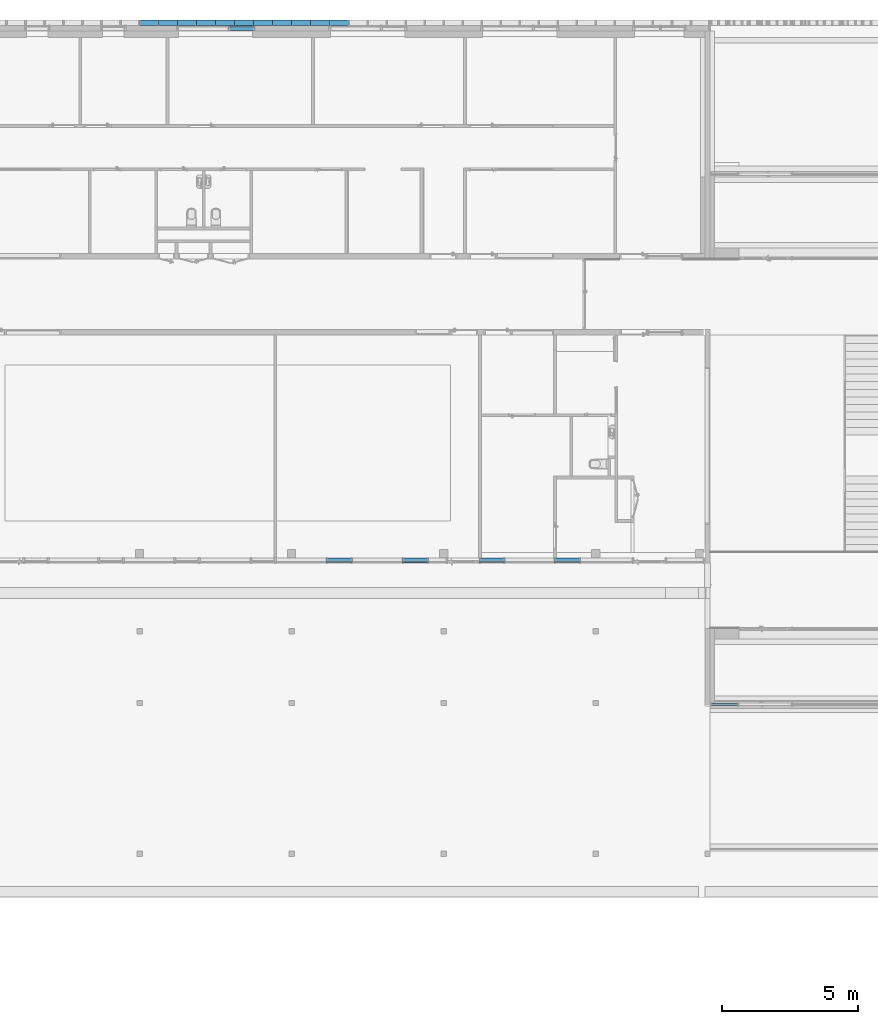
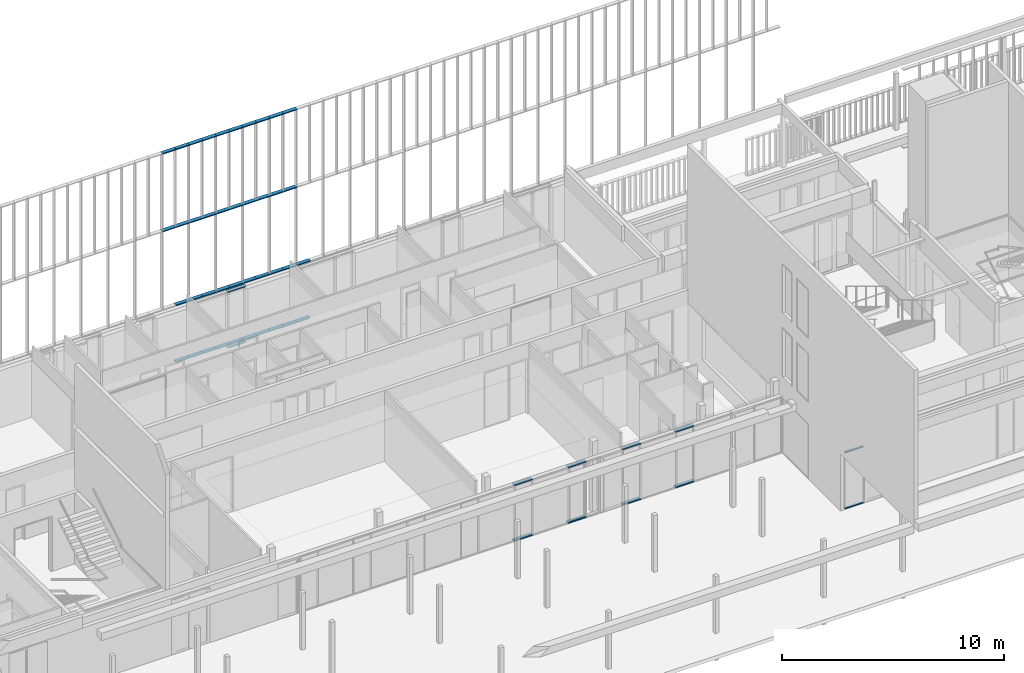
# One storey, part 42 of 240: 52 members, 5 elements without a shape of their own.
"""IFC2X3 building model written with IfcOpenShell, lengths in centimetres."""

from ifc_helpers import new_model, entity, si_unit, converted_unit, derived_unit, direction, frame, origin, origin_2d_with_axis, place, context, subcontext, project, spatial, polyline, rectangle, outline, extrude, source, transform, mapped, material, type_object, type_shapes, element, aggregate, save


model = new_model("IFC2X3")

# Units and contexts
model_context = context("Model", 3, precision=0.001, world=origin(), true_north=direction((6.12303176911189e-17, 1.0)))
body_context = subcontext(model_context, "Body", "Model", "MODEL_VIEW")
ifc_project = project(units=[si_unit("LENGTHUNIT", "METRE", prefix="CENTI"), si_unit("AREAUNIT", "SQUARE_METRE"), si_unit("VOLUMEUNIT", "CUBIC_METRE"), converted_unit("PLANEANGLEUNIT", "DEGREE", entity("IfcRatioMeasure", 0.0174532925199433), si_unit("PLANEANGLEUNIT", "RADIAN"), dimensions=[0, 0, 0, 0, 0, 0, 0]), si_unit("MASSUNIT", "GRAM", prefix="KILO"), derived_unit("MASSDENSITYUNIT", [(si_unit("MASSUNIT", "GRAM", prefix="KILO"), 1), (si_unit("LENGTHUNIT", "METRE"), -3)]), si_unit("TIMEUNIT", "SECOND"), si_unit("FREQUENCYUNIT", "HERTZ"), si_unit("THERMODYNAMICTEMPERATUREUNIT", "DEGREE_CELSIUS"), derived_unit("THERMALTRANSMITTANCEUNIT", [(si_unit("MASSUNIT", "GRAM", prefix="KILO"), 1), (si_unit("THERMODYNAMICTEMPERATUREUNIT", "KELVIN"), -1), (si_unit("TIMEUNIT", "SECOND"), -3)]), derived_unit("VOLUMETRICFLOWRATEUNIT", [(si_unit("LENGTHUNIT", "METRE"), 3), (si_unit("TIMEUNIT", "SECOND"), -1)]), si_unit("ELECTRICCURRENTUNIT", "AMPERE"), si_unit("ELECTRICVOLTAGEUNIT", "VOLT"), si_unit("POWERUNIT", "WATT"), si_unit("FORCEUNIT", "NEWTON", prefix="KILO"), si_unit("ILLUMINANCEUNIT", "LUX"), si_unit("LUMINOUSFLUXUNIT", "LUMEN"), si_unit("LUMINOUSINTENSITYUNIT", "CANDELA"), derived_unit("USERDEFINED", [(si_unit("MASSUNIT", "GRAM", prefix="KILO"), -1), (si_unit("LENGTHUNIT", "METRE"), -2), (si_unit("TIMEUNIT", "SECOND"), 3), (si_unit("LUMINOUSFLUXUNIT", "LUMEN"), 1)]), derived_unit("LINEARVELOCITYUNIT", [(si_unit("LENGTHUNIT", "METRE"), 1), (si_unit("TIMEUNIT", "SECOND"), -1)]), si_unit("PRESSUREUNIT", "PASCAL"), derived_unit("USERDEFINED", [(si_unit("LENGTHUNIT", "METRE"), -2), (si_unit("MASSUNIT", "GRAM", prefix="KILO"), 1), (si_unit("TIMEUNIT", "SECOND"), -2)])], contexts=[model_context])

# Site, building, storey
site_placement = place(None, frame((-2781.94577612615, 7442.24238424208, 0.0)))
site = spatial("IfcSite", under=ifc_project, at=site_placement, Name="Default", CompositionType="ELEMENT")
building_placement = place(site_placement, origin())
building = spatial("IfcBuilding", under=site, at=building_placement, CompositionType="ELEMENT")
storey_placement = place(building_placement, origin())
storey = spatial("IfcBuildingStorey", under=building, at=storey_placement, Name="N00 - COO", CompositionType="ELEMENT", Elevation=0.0)

# Curtain wall, member
curtain_wall_type_1 = type_object("IfcCurtainWallType", Name="Mur-rideau:07 - mur rideau trame 280 cm", PredefinedType="NOTDEFINED")
curtain_wall_1_placement = place(building_placement, origin())
curtain_wall_1 = element("IfcCurtainWall", 1, at=curtain_wall_1_placement, inside=storey, type_object=curtain_wall_type_1, Name="Mur-rideau:07 - mur rideau trame 280 cm", ObjectType="Mur-rideau:07 - mur rideau trame 280 cm")
ifc_material_1 = material(Name="Aluminium")
member_type_1 = type_object("IfcMemberType", Name="150 x 25mm Détails", PredefinedType="MEMBER")
shared_shape_1 = source(origin(), body_context, "Body", "SweptSolid", [
    extrude(outline(polyline([(-5.6666666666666, -3.24999999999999), (-3.66666666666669, -3.24999999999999), (-3.66666666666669, -0.868749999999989), (-0.166666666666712, -0.868749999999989), (-0.166666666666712, -3.25000000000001), (13.3333333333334, -3.25000000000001), (13.3333333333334, 3.24999999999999), (-0.16666666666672, 3.24999999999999), (-0.16666666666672, 0.868749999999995), (-3.66666666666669, 0.868749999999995), (-3.66666666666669, 3.25), (-5.6666666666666, 3.25), (-5.6666666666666, -3.24999999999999)])), frame((-3.24999999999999, -1.96666666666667, -96.5000000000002), z_axis=(0.0, 0.0, 1.0), x_axis=(0.0, -1.0, 0.0)), (0.0, 0.0, 1.0), 96.5),
])
type_shapes(member_type_1, [shared_shape_1])
member_1_placement = place(building_placement, frame((-6542.74987760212, 26.2000000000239, 6.5), z_axis=(-1.0, 0.0, 0.0), x_axis=(0.0, 0.0, 1.0)))
member_1 = element("IfcMember", 2, at=member_1_placement, type_object=member_type_1, material=ifc_material_1, Name="Meneau rectangulaire:150 x 25mm Détails", ObjectType="Meneau rectangulaire:150 x 25mm Détails", context=body_context, shape_type="MappedRepresentation", body=[
    mapped(shared_shape_1, transform((0.0, 0.0, 0.0), scale=1.0)),
])

# Curtain wall, members
curtain_wall_2_placement = place(building_placement, origin())
curtain_wall_2 = element("IfcCurtainWall", 3, at=curtain_wall_2_placement, inside=storey, type_object=curtain_wall_type_1, Name="Mur-rideau:07 - mur rideau trame 280 cm", ObjectType="Mur-rideau:07 - mur rideau trame 280 cm")
member_2_placement = place(building_placement, frame((-6086.24987760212, -1946.27903364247, 6.5), z_axis=(1.0, 0.0, 0.0), x_axis=(0.0, 0.0, 1.0)))
member_2 = element("IfcMember", 4, at=member_2_placement, type_object=member_type_1, material=ifc_material_1, Name="Meneau rectangulaire:150 x 25mm Détails", ObjectType="Meneau rectangulaire:150 x 25mm Détails", context=body_context, shape_type="MappedRepresentation", body=[
    mapped(shared_shape_1, transform((0.0, 0.0, 0.0), scale=1.0)),
])
member_3_placement = place(building_placement, frame((-5806.24987760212, -1946.27903364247, 6.5), z_axis=(1.0, 0.0, 0.0), x_axis=(0.0, 0.0, 1.0)))
member_3 = element("IfcMember", 5, at=member_3_placement, type_object=member_type_1, material=ifc_material_1, Name="Meneau rectangulaire:150 x 25mm Détails", ObjectType="Meneau rectangulaire:150 x 25mm Détails", context=body_context, shape_type="MappedRepresentation", body=[
    mapped(shared_shape_1, transform((0.0, 0.0, 0.0), scale=1.0)),
])

curtain_wall_3_placement = place(building_placement, origin())
curtain_wall_3 = element("IfcCurtainWall", 6, at=curtain_wall_3_placement, inside=storey, type_object=curtain_wall_type_1, Name="Mur-rideau:07 - mur rideau trame 280 cm", ObjectType="Mur-rideau:07 - mur rideau trame 280 cm")
member_4_placement = place(building_placement, frame((-5522.99987760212, -1946.27903364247, 6.5), z_axis=(1.0, 0.0, 0.0), x_axis=(0.0, 0.0, 1.0)))
member_4 = element("IfcMember", 7, at=member_4_placement, type_object=member_type_1, material=ifc_material_1, Name="Meneau rectangulaire:150 x 25mm Détails", ObjectType="Meneau rectangulaire:150 x 25mm Détails", context=body_context, shape_type="MappedRepresentation", body=[
    mapped(shared_shape_1, transform((0.0, 0.0, 0.0), scale=1.0)),
])
member_5_placement = place(building_placement, frame((-5246.24987757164, -1946.27903364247, 6.5), z_axis=(1.0, 0.0, 0.0), x_axis=(0.0, 0.0, 1.0)))
member_5 = element("IfcMember", 8, at=member_5_placement, type_object=member_type_1, material=ifc_material_1, Name="Meneau rectangulaire:150 x 25mm Détails", ObjectType="Meneau rectangulaire:150 x 25mm Détails", context=body_context, shape_type="MappedRepresentation", body=[
    mapped(shared_shape_1, transform((0.0, 0.0, 0.0), scale=1.0)),
])

# Member
member_type_2 = type_object("IfcMemberType", Name="150 x 25mm Détails", PredefinedType="MEMBER")
shared_shape_2 = source(origin(), body_context, "Body", "SweptSolid", [
    extrude(outline(polyline([(-5.66666666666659, -3.25), (-3.66666666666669, -3.25), (-3.66666666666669, -0.868749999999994), (-0.166666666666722, -0.868749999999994), (-0.166666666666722, -3.25000000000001), (13.3333333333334, -3.24999999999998), (13.3333333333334, 3.25000000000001), (-0.166666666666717, 3.25000000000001), (-0.166666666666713, 0.868749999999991), (-3.66666666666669, 0.868749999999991), (-3.66666666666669, 3.24999999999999), (-5.66666666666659, 3.24999999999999), (-5.66666666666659, -3.25)])), frame((-3.24999999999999, -1.96666666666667, -96.5000000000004), z_axis=(0.0, 0.0, 1.0), x_axis=(0.0, -1.0, 0.0)), (0.0, 0.0, 1.0), 96.5),
])
type_shapes(member_type_2, [shared_shape_2])
member_6_placement = place(building_placement, frame((-6446.24987760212, 26.2000000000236, 306.0), z_axis=(1.0, 0.0, 0.0), x_axis=(0.0, 0.0, -1.0)))
member_6 = element("IfcMember", 9, at=member_6_placement, type_object=member_type_2, material=ifc_material_1, Name="Meneau rectangulaire:150 x 25mm Détails", ObjectType="Meneau rectangulaire:150 x 25mm Détails", context=body_context, shape_type="MappedRepresentation", body=[
    mapped(shared_shape_2, transform((0.0, 0.0, 0.0), scale=1.0)),
])

aggregate(curtain_wall_1, [member_1, member_6])

member_7_placement = place(building_placement, frame((-5902.74987760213, -1946.27903364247, 306.0), z_axis=(-1.0, 0.0, 0.0), x_axis=(0.0, 0.0, -1.0)))
member_7 = element("IfcMember", 10, at=member_7_placement, type_object=member_type_2, material=ifc_material_1, Name="Meneau rectangulaire:150 x 25mm Détails", ObjectType="Meneau rectangulaire:150 x 25mm Détails", context=body_context, shape_type="MappedRepresentation", body=[
    mapped(shared_shape_2, transform((0.0, 0.0, 0.0), scale=1.0)),
])

member_8_placement = place(building_placement, frame((-6182.74987760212, -1946.27903364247, 306.0), z_axis=(-1.0, 0.0, 0.0), x_axis=(0.0, 0.0, -1.0)))
member_8 = element("IfcMember", 11, at=member_8_placement, type_object=member_type_2, material=ifc_material_1, Name="Meneau rectangulaire:150 x 25mm Détails", ObjectType="Meneau rectangulaire:150 x 25mm Détails", context=body_context, shape_type="MappedRepresentation", body=[
    mapped(shared_shape_2, transform((0.0, 0.0, 0.0), scale=1.0)),
])

aggregate(curtain_wall_2, [member_2, member_3, member_7, member_8])

member_9_placement = place(building_placement, frame((-5342.74987757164, -1946.27903364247, 306.0), z_axis=(-1.0, 0.0, 0.0), x_axis=(0.0, 0.0, -1.0)))
member_9 = element("IfcMember", 12, at=member_9_placement, type_object=member_type_2, material=ifc_material_1, Name="Meneau rectangulaire:150 x 25mm Détails", ObjectType="Meneau rectangulaire:150 x 25mm Détails", context=body_context, shape_type="MappedRepresentation", body=[
    mapped(shared_shape_2, transform((0.0, 0.0, 0.0), scale=1.0)),
])

member_10_placement = place(building_placement, frame((-5619.49987760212, -1946.27903364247, 306.0), z_axis=(-1.0, 0.0, 0.0), x_axis=(0.0, 0.0, -1.0)))
member_10 = element("IfcMember", 13, at=member_10_placement, type_object=member_type_2, material=ifc_material_1, Name="Meneau rectangulaire:150 x 25mm Détails", ObjectType="Meneau rectangulaire:150 x 25mm Détails", context=body_context, shape_type="MappedRepresentation", body=[
    mapped(shared_shape_2, transform((0.0, 0.0, 0.0), scale=1.0)),
])

aggregate(curtain_wall_3, [member_4, member_5, member_9, member_10])

# Curtain wall, members
curtain_wall_type_2 = type_object("IfcCurtainWallType", Name="Mur-rideau:Epines - 200x50mm", PredefinedType="NOTDEFINED")
curtain_wall_4_placement = place(building_placement, origin())
curtain_wall_4 = element("IfcCurtainWall", 14, at=curtain_wall_4_placement, inside=storey, type_object=curtain_wall_type_2, Name="Mur-rideau:Epines - 200x50mm", ObjectType="Mur-rideau:Epines - 200x50mm")
member_type_3 = type_object("IfcMemberType", Name="200x50 mm", PredefinedType="MEMBER")
shared_shape_3 = source(origin(), body_context, "Body", "SweptSolid", [
    extrude(rectangle(XDim=20.0, YDim=5.0, at=origin_2d_with_axis()), frame((-2.5, 0.0, -70.0), z_axis=(0.0, 0.0, 1.0), x_axis=(0.0, -1.0, 0.0)), (0.0, 0.0, 1.0), 70.0000000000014),
])
type_shapes(member_type_3, [shared_shape_3])
member_11_placement = place(building_placement, frame((-6169.49987760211, 40.0, 1176.0), z_axis=(1.0, 0.0, 0.0), x_axis=(0.0, 0.0, 1.0)))
member_11 = element("IfcMember", 15, at=member_11_placement, type_object=member_type_3, material=ifc_material_1, Name="Meneau rectangulaire:200x50 mm", ObjectType="Meneau rectangulaire:200x50 mm", context=body_context, shape_type="MappedRepresentation", body=[
    mapped(shared_shape_3, transform((0.0, 0.0, 0.0), scale=1.0)),
])
member_12_placement = place(building_placement, frame((-6449.49987760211, 40.0, 1176.0), z_axis=(1.0, 0.0, 0.0), x_axis=(0.0, 0.0, 1.0)))
member_12 = element("IfcMember", 16, at=member_12_placement, type_object=member_type_3, material=ifc_material_1, Name="Meneau rectangulaire:200x50 mm", ObjectType="Meneau rectangulaire:200x50 mm", context=body_context, shape_type="MappedRepresentation", body=[
    mapped(shared_shape_3, transform((0.0, 0.0, 0.0), scale=1.0)),
])
member_13_placement = place(building_placement, frame((-6729.49987760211, 40.0, 1176.0), z_axis=(1.0, 0.0, 0.0), x_axis=(0.0, 0.0, 1.0)))
member_13 = element("IfcMember", 17, at=member_13_placement, type_object=member_type_3, material=ifc_material_1, Name="Meneau rectangulaire:200x50 mm", ObjectType="Meneau rectangulaire:200x50 mm", context=body_context, shape_type="MappedRepresentation", body=[
    mapped(shared_shape_3, transform((0.0, 0.0, 0.0), scale=1.0)),
])
member_14_placement = place(building_placement, frame((-6309.49987760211, 40.0, 1176.0), z_axis=(1.0, 0.0, 0.0), x_axis=(0.0, 0.0, 1.0)))
member_14 = element("IfcMember", 18, at=member_14_placement, type_object=member_type_3, material=ifc_material_1, Name="Meneau rectangulaire:200x50 mm", ObjectType="Meneau rectangulaire:200x50 mm", context=body_context, shape_type="MappedRepresentation", body=[
    mapped(shared_shape_3, transform((0.0, 0.0, 0.0), scale=1.0)),
])
member_15_placement = place(building_placement, frame((-6589.49987760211, 40.0, 1176.0), z_axis=(1.0, 0.0, 0.0), x_axis=(0.0, 0.0, 1.0)))
member_15 = element("IfcMember", 19, at=member_15_placement, type_object=member_type_3, material=ifc_material_1, Name="Meneau rectangulaire:200x50 mm", ObjectType="Meneau rectangulaire:200x50 mm", context=body_context, shape_type="MappedRepresentation", body=[
    mapped(shared_shape_3, transform((0.0, 0.0, 0.0), scale=1.0)),
])
member_16_placement = place(building_placement, frame((-6239.49987760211, 40.0, 1176.0), z_axis=(1.0, 0.0, 0.0), x_axis=(0.0, 0.0, 1.0)))
member_16 = element("IfcMember", 20, at=member_16_placement, type_object=member_type_3, material=ifc_material_1, Name="Meneau rectangulaire:200x50 mm", ObjectType="Meneau rectangulaire:200x50 mm", context=body_context, shape_type="MappedRepresentation", body=[
    mapped(shared_shape_3, transform((0.0, 0.0, 0.0), scale=1.0)),
])
member_17_placement = place(building_placement, frame((-6379.49987760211, 40.0, 1176.0), z_axis=(1.0, 0.0, 0.0), x_axis=(0.0, 0.0, 1.0)))
member_17 = element("IfcMember", 21, at=member_17_placement, type_object=member_type_3, material=ifc_material_1, Name="Meneau rectangulaire:200x50 mm", ObjectType="Meneau rectangulaire:200x50 mm", context=body_context, shape_type="MappedRepresentation", body=[
    mapped(shared_shape_3, transform((0.0, 0.0, 0.0), scale=1.0)),
])
member_18_placement = place(building_placement, frame((-6519.49987760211, 40.0, 1176.0), z_axis=(1.0, 0.0, 0.0), x_axis=(0.0, 0.0, 1.0)))
member_18 = element("IfcMember", 22, at=member_18_placement, type_object=member_type_3, material=ifc_material_1, Name="Meneau rectangulaire:200x50 mm", ObjectType="Meneau rectangulaire:200x50 mm", context=body_context, shape_type="MappedRepresentation", body=[
    mapped(shared_shape_3, transform((0.0, 0.0, 0.0), scale=1.0)),
])
member_19_placement = place(building_placement, frame((-6659.49987760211, 40.0, 1176.0), z_axis=(1.0, 0.0, 0.0), x_axis=(0.0, 0.0, 1.0)))
member_19 = element("IfcMember", 23, at=member_19_placement, type_object=member_type_3, material=ifc_material_1, Name="Meneau rectangulaire:200x50 mm", ObjectType="Meneau rectangulaire:200x50 mm", context=body_context, shape_type="MappedRepresentation", body=[
    mapped(shared_shape_3, transform((0.0, 0.0, 0.0), scale=1.0)),
])
member_20_placement = place(building_placement, frame((-6799.49987760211, 40.0, 1176.0), z_axis=(1.0, 0.0, 0.0), x_axis=(0.0, 0.0, 1.0)))
member_20 = element("IfcMember", 24, at=member_20_placement, type_object=member_type_3, material=ifc_material_1, Name="Meneau rectangulaire:200x50 mm", ObjectType="Meneau rectangulaire:200x50 mm", context=body_context, shape_type="MappedRepresentation", body=[
    mapped(shared_shape_3, transform((0.0, 0.0, 0.0), scale=1.0)),
])
member_type_4 = type_object("IfcMemberType", Name="200x50 mm", PredefinedType="MEMBER")
shared_shape_4 = source(origin(), body_context, "Body", "SweptSolid", [
    extrude(rectangle(XDim=20.0, YDim=5.0, at=origin_2d_with_axis()), frame((-2.5, 0.0, -70.0), z_axis=(0.0, 0.0, 1.0), x_axis=(0.0, -1.0, 0.0)), (0.0, 0.0, 1.0), 70.0000000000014),
])
type_shapes(member_type_4, [shared_shape_4])
member_21_placement = place(building_placement, frame((-6169.49987760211, 40.0, 0.0), z_axis=(-1.0, 0.0, 0.0), x_axis=(0.0, 0.0, -1.0)))
member_21 = element("IfcMember", 25, at=member_21_placement, type_object=member_type_4, material=ifc_material_1, Name="Meneau rectangulaire:200x50 mm", ObjectType="Meneau rectangulaire:200x50 mm", context=body_context, shape_type="MappedRepresentation", body=[
    mapped(shared_shape_4, transform((0.0, 0.0, 0.0), scale=1.0)),
])
member_22_placement = place(building_placement, frame((-6449.49987760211, 40.0, 0.0), z_axis=(-1.0, 0.0, 0.0), x_axis=(0.0, 0.0, -1.0)))
member_22 = element("IfcMember", 26, at=member_22_placement, type_object=member_type_4, material=ifc_material_1, Name="Meneau rectangulaire:200x50 mm", ObjectType="Meneau rectangulaire:200x50 mm", context=body_context, shape_type="MappedRepresentation", body=[
    mapped(shared_shape_4, transform((0.0, 0.0, 0.0), scale=1.0)),
])
member_23_placement = place(building_placement, frame((-6729.49987760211, 40.0, 0.0), z_axis=(-1.0, 0.0, 0.0), x_axis=(0.0, 0.0, -1.0)))
member_23 = element("IfcMember", 27, at=member_23_placement, type_object=member_type_4, material=ifc_material_1, Name="Meneau rectangulaire:200x50 mm", ObjectType="Meneau rectangulaire:200x50 mm", context=body_context, shape_type="MappedRepresentation", body=[
    mapped(shared_shape_4, transform((0.0, 0.0, 0.0), scale=1.0)),
])
member_type_5 = type_object("IfcMemberType", Name="200x50 mm", PredefinedType="MEMBER")
shared_shape_5 = source(origin(), body_context, "Body", "SweptSolid", [
    extrude(rectangle(XDim=20.0, YDim=5.0, at=origin_2d_with_axis()), frame((0.0, 0.0, -70.0), z_axis=(0.0, 0.0, 1.0), x_axis=(0.0, -1.0, 0.0)), (0.0, 0.0, 1.0), 70.0000000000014),
])
type_shapes(member_type_5, [shared_shape_5])
member_24_placement = place(building_placement, frame((-6099.49987760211, 40.0, 315.0), z_axis=(1.0, 0.0, 0.0), x_axis=(0.0, 0.0, 1.0)))
member_24 = element("IfcMember", 28, at=member_24_placement, type_object=member_type_5, material=ifc_material_1, Name="Meneau rectangulaire:200x50 mm", ObjectType="Meneau rectangulaire:200x50 mm", context=body_context, shape_type="MappedRepresentation", body=[
    mapped(shared_shape_5, transform((0.0, 0.0, 0.0), scale=1.0)),
])
member_25_placement = place(building_placement, frame((-6379.49987760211, 40.0, 315.0), z_axis=(1.0, 0.0, 0.0), x_axis=(0.0, 0.0, 1.0)))
member_25 = element("IfcMember", 29, at=member_25_placement, type_object=member_type_5, material=ifc_material_1, Name="Meneau rectangulaire:200x50 mm", ObjectType="Meneau rectangulaire:200x50 mm", context=body_context, shape_type="MappedRepresentation", body=[
    mapped(shared_shape_5, transform((0.0, 0.0, 0.0), scale=1.0)),
])
member_26_placement = place(building_placement, frame((-6659.49987760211, 40.0, 315.0), z_axis=(1.0, 0.0, 0.0), x_axis=(0.0, 0.0, 1.0)))
member_26 = element("IfcMember", 30, at=member_26_placement, type_object=member_type_5, material=ifc_material_1, Name="Meneau rectangulaire:200x50 mm", ObjectType="Meneau rectangulaire:200x50 mm", context=body_context, shape_type="MappedRepresentation", body=[
    mapped(shared_shape_5, transform((0.0, 0.0, 0.0), scale=1.0)),
])
member_27_placement = place(building_placement, frame((-6239.49987760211, 40.0, 315.0), z_axis=(1.0, 0.0, 0.0), x_axis=(0.0, 0.0, 1.0)))
member_27 = element("IfcMember", 31, at=member_27_placement, type_object=member_type_5, material=ifc_material_1, Name="Meneau rectangulaire:200x50 mm", ObjectType="Meneau rectangulaire:200x50 mm", context=body_context, shape_type="MappedRepresentation", body=[
    mapped(shared_shape_5, transform((0.0, 0.0, 0.0), scale=1.0)),
])
member_28_placement = place(building_placement, frame((-6519.49987760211, 40.0, 315.0), z_axis=(1.0, 0.0, 0.0), x_axis=(0.0, 0.0, 1.0)))
member_28 = element("IfcMember", 32, at=member_28_placement, type_object=member_type_5, material=ifc_material_1, Name="Meneau rectangulaire:200x50 mm", ObjectType="Meneau rectangulaire:200x50 mm", context=body_context, shape_type="MappedRepresentation", body=[
    mapped(shared_shape_5, transform((0.0, 0.0, 0.0), scale=1.0)),
])
member_type_6 = type_object("IfcMemberType", Name="200x50 mm", PredefinedType="MEMBER")
shared_shape_6 = source(origin(), body_context, "Body", "SweptSolid", [
    extrude(rectangle(XDim=20.0, YDim=5.0, at=origin_2d_with_axis()), frame((0.0, 0.0, -70.0), z_axis=(0.0, 0.0, 1.0), x_axis=(0.0, -1.0, 0.0)), (0.0, 0.0, 1.0), 70.0000000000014),
])
type_shapes(member_type_6, [shared_shape_6])
member_29_placement = place(building_placement, frame((-6379.49987760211, 40.0, 745.5), z_axis=(1.0, 0.0, 0.0), x_axis=(0.0, 0.0, 1.0)))
member_29 = element("IfcMember", 33, at=member_29_placement, type_object=member_type_6, material=ifc_material_1, Name="Meneau rectangulaire:200x50 mm", ObjectType="Meneau rectangulaire:200x50 mm", context=body_context, shape_type="MappedRepresentation", body=[
    mapped(shared_shape_6, transform((0.0, 0.0, 0.0), scale=1.0)),
])
member_30_placement = place(building_placement, frame((-6659.49987760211, 40.0, 745.5), z_axis=(1.0, 0.0, 0.0), x_axis=(0.0, 0.0, 1.0)))
member_30 = element("IfcMember", 34, at=member_30_placement, type_object=member_type_6, material=ifc_material_1, Name="Meneau rectangulaire:200x50 mm", ObjectType="Meneau rectangulaire:200x50 mm", context=body_context, shape_type="MappedRepresentation", body=[
    mapped(shared_shape_6, transform((0.0, 0.0, 0.0), scale=1.0)),
])
member_31_placement = place(building_placement, frame((-6239.49987760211, 40.0, 745.5), z_axis=(1.0, 0.0, 0.0), x_axis=(0.0, 0.0, 1.0)))
member_31 = element("IfcMember", 35, at=member_31_placement, type_object=member_type_6, material=ifc_material_1, Name="Meneau rectangulaire:200x50 mm", ObjectType="Meneau rectangulaire:200x50 mm", context=body_context, shape_type="MappedRepresentation", body=[
    mapped(shared_shape_6, transform((0.0, 0.0, 0.0), scale=1.0)),
])
member_32_placement = place(building_placement, frame((-6519.49987760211, 40.0, 745.5), z_axis=(1.0, 0.0, 0.0), x_axis=(0.0, 0.0, 1.0)))
member_32 = element("IfcMember", 36, at=member_32_placement, type_object=member_type_6, material=ifc_material_1, Name="Meneau rectangulaire:200x50 mm", ObjectType="Meneau rectangulaire:200x50 mm", context=body_context, shape_type="MappedRepresentation", body=[
    mapped(shared_shape_6, transform((0.0, 0.0, 0.0), scale=1.0)),
])
member_33_placement = place(building_placement, frame((-6799.49987760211, 40.0, 745.5), z_axis=(1.0, 0.0, 0.0), x_axis=(0.0, 0.0, 1.0)))
member_33 = element("IfcMember", 37, at=member_33_placement, type_object=member_type_6, material=ifc_material_1, Name="Meneau rectangulaire:200x50 mm", ObjectType="Meneau rectangulaire:200x50 mm", context=body_context, shape_type="MappedRepresentation", body=[
    mapped(shared_shape_6, transform((0.0, 0.0, 0.0), scale=1.0)),
])
member_34_placement = place(building_placement, frame((-6169.49987760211, 40.0, 745.5), z_axis=(1.0, 0.0, 0.0), x_axis=(0.0, 0.0, 1.0)))
member_34 = element("IfcMember", 38, at=member_34_placement, type_object=member_type_6, material=ifc_material_1, Name="Meneau rectangulaire:200x50 mm", ObjectType="Meneau rectangulaire:200x50 mm", context=body_context, shape_type="MappedRepresentation", body=[
    mapped(shared_shape_6, transform((0.0, 0.0, 0.0), scale=1.0)),
])
member_35_placement = place(building_placement, frame((-6309.49987760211, 40.0, 745.5), z_axis=(1.0, 0.0, 0.0), x_axis=(0.0, 0.0, 1.0)))
member_35 = element("IfcMember", 39, at=member_35_placement, type_object=member_type_6, material=ifc_material_1, Name="Meneau rectangulaire:200x50 mm", ObjectType="Meneau rectangulaire:200x50 mm", context=body_context, shape_type="MappedRepresentation", body=[
    mapped(shared_shape_6, transform((0.0, 0.0, 0.0), scale=1.0)),
])
member_36_placement = place(building_placement, frame((-6449.49987760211, 40.0, 745.5), z_axis=(1.0, 0.0, 0.0), x_axis=(0.0, 0.0, 1.0)))
member_36 = element("IfcMember", 40, at=member_36_placement, type_object=member_type_6, material=ifc_material_1, Name="Meneau rectangulaire:200x50 mm", ObjectType="Meneau rectangulaire:200x50 mm", context=body_context, shape_type="MappedRepresentation", body=[
    mapped(shared_shape_6, transform((0.0, 0.0, 0.0), scale=1.0)),
])
member_37_placement = place(building_placement, frame((-6589.49987760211, 40.0, 745.5), z_axis=(1.0, 0.0, 0.0), x_axis=(0.0, 0.0, 1.0)))
member_37 = element("IfcMember", 41, at=member_37_placement, type_object=member_type_6, material=ifc_material_1, Name="Meneau rectangulaire:200x50 mm", ObjectType="Meneau rectangulaire:200x50 mm", context=body_context, shape_type="MappedRepresentation", body=[
    mapped(shared_shape_6, transform((0.0, 0.0, 0.0), scale=1.0)),
])
member_38_placement = place(building_placement, frame((-6729.49987760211, 40.0, 745.5), z_axis=(1.0, 0.0, 0.0), x_axis=(0.0, 0.0, 1.0)))
member_38 = element("IfcMember", 42, at=member_38_placement, type_object=member_type_6, material=ifc_material_1, Name="Meneau rectangulaire:200x50 mm", ObjectType="Meneau rectangulaire:200x50 mm", context=body_context, shape_type="MappedRepresentation", body=[
    mapped(shared_shape_6, transform((0.0, 0.0, 0.0), scale=1.0)),
])
member_type_7 = type_object("IfcMemberType", Name="200x50 mm", PredefinedType="MEMBER")
shared_shape_7 = source(origin(), body_context, "Body", "SweptSolid", [
    extrude(rectangle(XDim=20.0, YDim=5.0, at=origin_2d_with_axis()), frame((-2.5, 0.0, -70.0), z_axis=(0.0, 0.0, 1.0), x_axis=(0.0, -1.0, 0.0)), (0.0, 0.0, 1.0), 69.9999999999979),
])
type_shapes(member_type_7, [shared_shape_7])
member_39_placement = place(building_placement, frame((-6309.49987760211, 40.0, 0.0), z_axis=(-1.0, 0.0, 0.0), x_axis=(0.0, 0.0, -1.0)))
member_39 = element("IfcMember", 43, at=member_39_placement, type_object=member_type_7, material=ifc_material_1, Name="Meneau rectangulaire:200x50 mm", ObjectType="Meneau rectangulaire:200x50 mm", context=body_context, shape_type="MappedRepresentation", body=[
    mapped(shared_shape_7, transform((0.0, 0.0, 0.0), scale=1.0)),
])
member_40_placement = place(building_placement, frame((-6589.49987760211, 40.0, 0.0), z_axis=(-1.0, 0.0, 0.0), x_axis=(0.0, 0.0, -1.0)))
member_40 = element("IfcMember", 44, at=member_40_placement, type_object=member_type_7, material=ifc_material_1, Name="Meneau rectangulaire:200x50 mm", ObjectType="Meneau rectangulaire:200x50 mm", context=body_context, shape_type="MappedRepresentation", body=[
    mapped(shared_shape_7, transform((0.0, 0.0, 0.0), scale=1.0)),
])
member_41_placement = place(building_placement, frame((-6379.49987760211, 40.0, 0.0), z_axis=(-1.0, 0.0, 0.0), x_axis=(0.0, 0.0, -1.0)))
member_41 = element("IfcMember", 45, at=member_41_placement, type_object=member_type_7, material=ifc_material_1, Name="Meneau rectangulaire:200x50 mm", ObjectType="Meneau rectangulaire:200x50 mm", context=body_context, shape_type="MappedRepresentation", body=[
    mapped(shared_shape_7, transform((0.0, 0.0, 0.0), scale=1.0)),
])
member_42_placement = place(building_placement, frame((-6659.49987760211, 40.0, 0.0), z_axis=(-1.0, 0.0, 0.0), x_axis=(0.0, 0.0, -1.0)))
member_42 = element("IfcMember", 46, at=member_42_placement, type_object=member_type_7, material=ifc_material_1, Name="Meneau rectangulaire:200x50 mm", ObjectType="Meneau rectangulaire:200x50 mm", context=body_context, shape_type="MappedRepresentation", body=[
    mapped(shared_shape_7, transform((0.0, 0.0, 0.0), scale=1.0)),
])
member_type_8 = type_object("IfcMemberType", Name="200x50 mm", PredefinedType="MEMBER")
shared_shape_8 = source(origin(), body_context, "Body", "SweptSolid", [
    extrude(rectangle(XDim=20.0, YDim=5.0, at=origin_2d_with_axis()), frame((0.0, 0.0, -70.0), z_axis=(0.0, 0.0, 1.0), x_axis=(0.0, -1.0, 0.0)), (0.0, 0.0, 1.0), 70.0000000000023),
])
type_shapes(member_type_8, [shared_shape_8])
member_43_placement = place(building_placement, frame((-6169.49987760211, 40.0, 315.0), z_axis=(1.0, 0.0, 0.0), x_axis=(0.0, 0.0, 1.0)))
member_43 = element("IfcMember", 47, at=member_43_placement, type_object=member_type_8, material=ifc_material_1, Name="Meneau rectangulaire:200x50 mm", ObjectType="Meneau rectangulaire:200x50 mm", context=body_context, shape_type="MappedRepresentation", body=[
    mapped(shared_shape_8, transform((0.0, 0.0, 0.0), scale=1.0)),
])
member_44_placement = place(building_placement, frame((-6309.49987760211, 40.0, 315.0), z_axis=(1.0, 0.0, 0.0), x_axis=(0.0, 0.0, 1.0)))
member_44 = element("IfcMember", 48, at=member_44_placement, type_object=member_type_8, material=ifc_material_1, Name="Meneau rectangulaire:200x50 mm", ObjectType="Meneau rectangulaire:200x50 mm", context=body_context, shape_type="MappedRepresentation", body=[
    mapped(shared_shape_8, transform((0.0, 0.0, 0.0), scale=1.0)),
])
member_45_placement = place(building_placement, frame((-6449.49987760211, 40.0, 315.0), z_axis=(1.0, 0.0, 0.0), x_axis=(0.0, 0.0, 1.0)))
member_45 = element("IfcMember", 49, at=member_45_placement, type_object=member_type_8, material=ifc_material_1, Name="Meneau rectangulaire:200x50 mm", ObjectType="Meneau rectangulaire:200x50 mm", context=body_context, shape_type="MappedRepresentation", body=[
    mapped(shared_shape_8, transform((0.0, 0.0, 0.0), scale=1.0)),
])
member_46_placement = place(building_placement, frame((-6589.49987760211, 40.0, 315.0), z_axis=(1.0, 0.0, 0.0), x_axis=(0.0, 0.0, 1.0)))
member_46 = element("IfcMember", 50, at=member_46_placement, type_object=member_type_8, material=ifc_material_1, Name="Meneau rectangulaire:200x50 mm", ObjectType="Meneau rectangulaire:200x50 mm", context=body_context, shape_type="MappedRepresentation", body=[
    mapped(shared_shape_8, transform((0.0, 0.0, 0.0), scale=1.0)),
])
member_47_placement = place(building_placement, frame((-6729.49987760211, 40.0, 315.0), z_axis=(1.0, 0.0, 0.0), x_axis=(0.0, 0.0, 1.0)))
member_47 = element("IfcMember", 51, at=member_47_placement, type_object=member_type_8, material=ifc_material_1, Name="Meneau rectangulaire:200x50 mm", ObjectType="Meneau rectangulaire:200x50 mm", context=body_context, shape_type="MappedRepresentation", body=[
    mapped(shared_shape_8, transform((0.0, 0.0, 0.0), scale=1.0)),
])
member_type_9 = type_object("IfcMemberType", Name="200x50 mm", PredefinedType="MEMBER")
shared_shape_9 = source(origin(), body_context, "Body", "SweptSolid", [
    extrude(rectangle(XDim=20.0, YDim=5.0, at=origin_2d_with_axis()), frame((-2.5, 0.0, -70.0), z_axis=(0.0, 0.0, 1.0), x_axis=(0.0, -1.0, 0.0)), (0.0, 0.0, 1.0), 70.0000000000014),
])
type_shapes(member_type_9, [shared_shape_9])
member_48_placement = place(building_placement, frame((-6239.49987760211, 40.0, 0.0), z_axis=(-1.0, 0.0, 0.0), x_axis=(0.0, 0.0, -1.0)))
member_48 = element("IfcMember", 52, at=member_48_placement, type_object=member_type_9, material=ifc_material_1, Name="Meneau rectangulaire:200x50 mm", ObjectType="Meneau rectangulaire:200x50 mm", context=body_context, shape_type="MappedRepresentation", body=[
    mapped(shared_shape_9, transform((0.0, 0.0, 0.0), scale=1.0)),
])
member_49_placement = place(building_placement, frame((-6519.49987760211, 40.0, 0.0), z_axis=(-1.0, 0.0, 0.0), x_axis=(0.0, 0.0, -1.0)))
member_49 = element("IfcMember", 53, at=member_49_placement, type_object=member_type_9, material=ifc_material_1, Name="Meneau rectangulaire:200x50 mm", ObjectType="Meneau rectangulaire:200x50 mm", context=body_context, shape_type="MappedRepresentation", body=[
    mapped(shared_shape_9, transform((0.0, 0.0, 0.0), scale=1.0)),
])
member_50_placement = place(building_placement, frame((-6799.49987760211, 40.0, 0.0), z_axis=(-1.0, 0.0, 0.0), x_axis=(0.0, 0.0, -1.0)))
member_50 = element("IfcMember", 54, at=member_50_placement, type_object=member_type_9, material=ifc_material_1, Name="Meneau rectangulaire:200x50 mm", ObjectType="Meneau rectangulaire:200x50 mm", context=body_context, shape_type="MappedRepresentation", body=[
    mapped(shared_shape_9, transform((0.0, 0.0, 0.0), scale=1.0)),
])
aggregate(curtain_wall_4, [member_11, member_21, member_24, member_12, member_22, member_25, member_29, member_13, member_23, member_26, member_30, member_14, member_39, member_27, member_31, member_15, member_40, member_28, member_32, member_33, member_16, member_48, member_43, member_34, member_17, member_41, member_44, member_35, member_18, member_49, member_45, member_36, member_19, member_42, member_46, member_37, member_20, member_50, member_47, member_38])

curtain_wall_type_3 = type_object("IfcCurtainWallType", Name="Mur-rideau:07 - mur rideau vitrage sans recoupement 10cm", PredefinedType="NOTDEFINED")
curtain_wall_5_placement = place(building_placement, origin())
curtain_wall_5 = element("IfcCurtainWall", 55, at=curtain_wall_5_placement, inside=storey, type_object=curtain_wall_type_3, Name="Mur-rideau:07 - mur rideau vitrage sans recoupement 10cm", ObjectType="Mur-rideau:07 - mur rideau vitrage sans recoupement 10cm")
ifc_material_2 = material(Name="Plastique, blanc opaque")
member_type_10 = type_object("IfcMemberType", Name="100 x 50mm", PredefinedType="MEMBER")
shared_shape_10 = source(origin(), body_context, "Body", "SweptSolid", [
    extrude(rectangle(XDim=10.0, YDim=5.0, at=origin_2d_with_axis()), frame((-2.5, 0.0, -95.2629526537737), z_axis=(0.0, 0.0, 1.0), x_axis=(0.0, -1.0, 0.0)), (0.0, 0.0, 1.0), 95.2629526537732),
])
type_shapes(member_type_10, [shared_shape_10])
member_51_placement = place(building_placement, frame((-4667.73692494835, -2470.15656731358, 313.0), z_axis=(1.0, 0.0, 0.0), x_axis=(0.0, 0.0, 1.0)))
member_51 = element("IfcMember", 56, at=member_51_placement, type_object=member_type_10, material=ifc_material_2, Name="Meneau rectangulaire:100 x 50mm", ObjectType="Meneau rectangulaire:100 x 50mm", context=body_context, shape_type="MappedRepresentation", body=[
    mapped(shared_shape_10, transform((0.0, 0.0, 0.0), scale=1.0)),
])
member_type_11 = type_object("IfcMemberType", Name="100 x 50mm", PredefinedType="MEMBER")
shared_shape_11 = source(origin(), body_context, "Body", "SweptSolid", [
    extrude(rectangle(XDim=10.0, YDim=5.0, at=origin_2d_with_axis()), frame((-2.5, 0.0, -95.2629526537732), z_axis=(0.0, 0.0, 1.0), x_axis=(0.0, -1.0, 0.0)), (0.0, 0.0, 1.0), 95.2629526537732),
])
type_shapes(member_type_11, [shared_shape_11])
member_52_placement = place(building_placement, frame((-4762.99987760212, -2470.15656731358, 0.0), z_axis=(-1.0, 0.0, 0.0), x_axis=(0.0, 0.0, -1.0)))
member_52 = element("IfcMember", 57, at=member_52_placement, type_object=member_type_11, material=ifc_material_2, Name="Meneau rectangulaire:100 x 50mm", ObjectType="Meneau rectangulaire:100 x 50mm", context=body_context, shape_type="MappedRepresentation", body=[
    mapped(shared_shape_11, transform((0.0, 0.0, 0.0), scale=1.0)),
])
aggregate(curtain_wall_5, [member_51, member_52])

save(model, "model.ifc")
